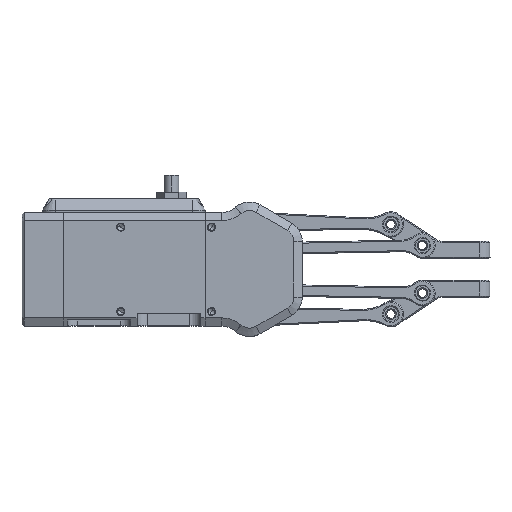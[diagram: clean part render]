
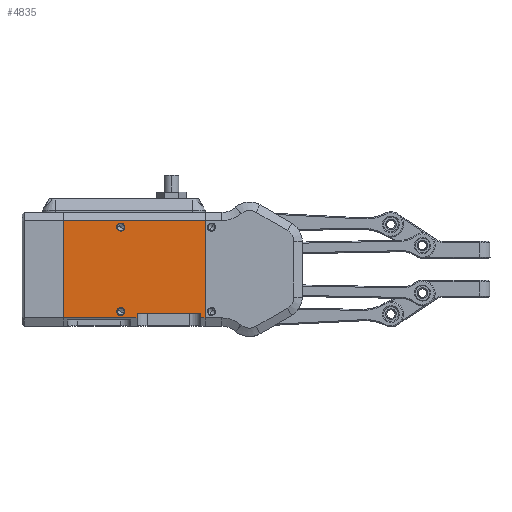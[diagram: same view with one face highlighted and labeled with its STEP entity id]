
A CAD part, front view. The second image highlights one B-rep face of the part: STEP entity #4835.
In plain terms, the highlighted planar face has unit normal (0, -1, 0) as drawn and (0, 1, 0) by its records, which use the part's own axes.
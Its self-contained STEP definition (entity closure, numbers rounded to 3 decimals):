
#113=CARTESIAN_POINT('Vertex',(-35.,22.5,-21.)) ;
#116=CARTESIAN_POINT('Line Origine',(-35.,22.5,-22.)) ;
#120=CARTESIAN_POINT('Vertex',(-35.,22.5,-23.)) ;
#4431=CARTESIAN_POINT('Vertex',(-65.,22.5,-23.)) ;
#4434=CARTESIAN_POINT('Line Origine',(-65.,22.5,-22.)) ;
#4438=CARTESIAN_POINT('Vertex',(-65.,22.5,-21.)) ;
#4453=CARTESIAN_POINT('Line Origine',(-50.,22.5,-21.)) ;
#4474=CARTESIAN_POINT('Line Origine',(-17.5,22.5,-23.)) ;
#4478=CARTESIAN_POINT('Vertex',(0.,22.5,-23.)) ;
#4505=CARTESIAN_POINT('Line Origine',(0.,22.5,0.)) ;
#4509=CARTESIAN_POINT('Vertex',(0.,22.5,23.)) ;
#4559=CARTESIAN_POINT('Line Origine',(-33.65,22.5,23.)) ;
#4563=CARTESIAN_POINT('Vertex',(-67.3,22.5,23.)) ;
#4587=CARTESIAN_POINT('Vertex',(-67.3,22.5,-23.)) ;
#4590=CARTESIAN_POINT('Line Origine',(-67.3,22.5,0.)) ;
#4622=CARTESIAN_POINT('Line Origine',(-66.15,22.5,-23.)) ;
#4698=CARTESIAN_POINT('Vertex',(-28.986,22.5,-20.921)) ;
#4701=CARTESIAN_POINT('Axis2P3D Location',(-27.3,22.5,-20.)) ;
#4705=CARTESIAN_POINT('Vertex',(-25.614,22.5,-19.079)) ;
#4725=CARTESIAN_POINT('Axis2P3D Location',(-27.3,22.5,-20.)) ;
#4780=CARTESIAN_POINT('Axis2P3D Location',(0.,22.5,27.)) ;
#4795=CARTESIAN_POINT('Axis2P3D Location',(-27.3,22.5,20.)) ;
#4799=CARTESIAN_POINT('Vertex',(-25.614,22.5,20.921)) ;
#4801=CARTESIAN_POINT('Vertex',(-28.986,22.5,19.079)) ;
#4805=CARTESIAN_POINT('Control Point',(-28.986,22.5,19.079)) ;
#4806=CARTESIAN_POINT('Control Point',(-29.086,22.5,19.262)) ;
#4807=CARTESIAN_POINT('Control Point',(-29.161,22.5,19.458)) ;
#4808=CARTESIAN_POINT('Control Point',(-29.209,22.5,19.663)) ;
#4809=CARTESIAN_POINT('Control Point',(-29.253,22.5,20.138)) ;
#4810=CARTESIAN_POINT('Control Point',(-29.152,22.5,20.607)) ;
#4811=CARTESIAN_POINT('Control Point',(-29.05,22.5,20.858)) ;
#4812=CARTESIAN_POINT('Control Point',(-28.837,22.5,21.197)) ;
#4813=CARTESIAN_POINT('Control Point',(-28.548,22.5,21.469)) ;
#4814=CARTESIAN_POINT('Control Point',(-28.445,22.5,21.551)) ;
#4815=CARTESIAN_POINT('Control Point',(-28.087,22.5,21.788)) ;
#4816=CARTESIAN_POINT('Control Point',(-27.672,22.5,21.92)) ;
#4817=CARTESIAN_POINT('Control Point',(-27.369,22.5,21.955)) ;
#4818=CARTESIAN_POINT('Control Point',(-26.763,22.5,21.905)) ;
#4819=CARTESIAN_POINT('Control Point',(-26.219,22.5,21.631)) ;
#4820=CARTESIAN_POINT('Control Point',(-25.976,22.5,21.441)) ;
#4821=CARTESIAN_POINT('Control Point',(-25.773,22.5,21.204)) ;
#4822=CARTESIAN_POINT('Control Point',(-25.623,22.5,20.937)) ;
#4823=CARTESIAN_POINT('Control Point',(-25.62,22.5,20.931)) ;
#4824=CARTESIAN_POINT('Control Point',(-25.617,22.5,20.926)) ;
#4825=CARTESIAN_POINT('Control Point',(-25.614,22.5,20.921)) ;
#117=DIRECTION('Vector Direction',(0.,0.,1.)) ;
#4435=DIRECTION('Vector Direction',(0.,0.,1.)) ;
#4454=DIRECTION('Vector Direction',(1.,0.,0.)) ;
#4475=DIRECTION('Vector Direction',(1.,0.,0.)) ;
#4506=DIRECTION('Vector Direction',(0.,0.,-1.)) ;
#4560=DIRECTION('Vector Direction',(1.,0.,0.)) ;
#4591=DIRECTION('Vector Direction',(0.,0.,-1.)) ;
#4623=DIRECTION('Vector Direction',(1.,0.,0.)) ;
#4702=DIRECTION('Axis2P3D Direction',(0.,1.,0.)) ;
#4726=DIRECTION('Axis2P3D Direction',(-0.,1.,0.)) ;
#4781=DIRECTION('Axis2P3D Direction',(0.,1.,0.)) ;
#4782=DIRECTION('Axis2P3D XDirection',(0.,0.,-1.)) ;
#4796=DIRECTION('Axis2P3D Direction',(0.,1.,0.)) ;
#4703=AXIS2_PLACEMENT_3D('Circle Axis2P3D',#4701,#4702,$) ;
#4727=AXIS2_PLACEMENT_3D('Circle Axis2P3D',#4725,#4726,$) ;
#4783=AXIS2_PLACEMENT_3D('Plane Axis2P3D',#4780,#4781,#4782) ;
#4797=AXIS2_PLACEMENT_3D('Circle Axis2P3D',#4795,#4796,$) ;
#4786=ORIENTED_EDGE('',*,*,#4626,.F.) ;
#4787=ORIENTED_EDGE('',*,*,#4594,.F.) ;
#4788=ORIENTED_EDGE('',*,*,#4565,.F.) ;
#4789=ORIENTED_EDGE('',*,*,#4511,.F.) ;
#4790=ORIENTED_EDGE('',*,*,#4480,.F.) ;
#4791=ORIENTED_EDGE('',*,*,#122,.T.) ;
#4792=ORIENTED_EDGE('',*,*,#4457,.F.) ;
#4793=ORIENTED_EDGE('',*,*,#4440,.F.) ;
#4828=ORIENTED_EDGE('',*,*,#4803,.F.) ;
#4829=ORIENTED_EDGE('',*,*,#4826,.F.) ;
#4832=ORIENTED_EDGE('',*,*,#4729,.F.) ;
#4833=ORIENTED_EDGE('',*,*,#4707,.F.) ;
#4830=FACE_BOUND('',#4827,.T.) ;
#4834=FACE_BOUND('',#4831,.T.) ;
#118=VECTOR('Line Direction',#117,1.) ;
#4436=VECTOR('Line Direction',#4435,1.) ;
#4455=VECTOR('Line Direction',#4454,1.) ;
#4476=VECTOR('Line Direction',#4475,1.) ;
#4507=VECTOR('Line Direction',#4506,1.) ;
#4561=VECTOR('Line Direction',#4560,1.) ;
#4592=VECTOR('Line Direction',#4591,1.) ;
#4624=VECTOR('Line Direction',#4623,1.) ;
#4835=ADVANCED_FACE('\X2\96F64EF651E04F554F53\X0\',(#4794,#4830,#4834),#4784,.T.) ;
#4804=B_SPLINE_CURVE_WITH_KNOTS('',5,(#4805,#4806,#4807,#4808,#4809,#4810,#4811,#4812,#4813,#4814,#4815,#4816,#4817,#4818,#4819,#4820,#4821,#4822,#4823,#4824,#4825),.UNSPECIFIED.,.F.,.U.,(6,3,3,3,3,3,6),(7.896,9.258,10.989,11.844,13.787,15.753,15.792),.UNSPECIFIED.) ;
#4704=CIRCLE('generated circle',#4703,1.921) ;
#4728=CIRCLE('generated circle',#4727,1.921) ;
#4798=CIRCLE('generated circle',#4797,1.921) ;
#122=EDGE_CURVE('',#121,#114,#119,.T.) ;
#4440=EDGE_CURVE('',#4432,#4439,#4437,.T.) ;
#4457=EDGE_CURVE('',#4439,#114,#4456,.T.) ;
#4480=EDGE_CURVE('',#121,#4479,#4477,.T.) ;
#4511=EDGE_CURVE('',#4479,#4510,#4508,.F.) ;
#4565=EDGE_CURVE('',#4510,#4564,#4562,.F.) ;
#4594=EDGE_CURVE('',#4564,#4588,#4593,.T.) ;
#4626=EDGE_CURVE('',#4588,#4432,#4625,.T.) ;
#4707=EDGE_CURVE('',#4699,#4706,#4704,.T.) ;
#4729=EDGE_CURVE('',#4706,#4699,#4728,.T.) ;
#4803=EDGE_CURVE('',#4800,#4802,#4798,.T.) ;
#4826=EDGE_CURVE('',#4802,#4800,#4804,.T.) ;
#4785=EDGE_LOOP('',(#4786,#4787,#4788,#4789,#4790,#4791,#4792,#4793)) ;
#4827=EDGE_LOOP('',(#4828,#4829)) ;
#4831=EDGE_LOOP('',(#4832,#4833)) ;
#4794=FACE_OUTER_BOUND('',#4785,.T.) ;
#119=LINE('Line',#116,#118) ;
#4437=LINE('Line',#4434,#4436) ;
#4456=LINE('Line',#4453,#4455) ;
#4477=LINE('Line',#4474,#4476) ;
#4508=LINE('Line',#4505,#4507) ;
#4562=LINE('Line',#4559,#4561) ;
#4593=LINE('Line',#4590,#4592) ;
#4625=LINE('Line',#4622,#4624) ;
#4784=PLANE('Plane',#4783) ;
#114=VERTEX_POINT('',#113) ;
#121=VERTEX_POINT('',#120) ;
#4432=VERTEX_POINT('',#4431) ;
#4439=VERTEX_POINT('',#4438) ;
#4479=VERTEX_POINT('',#4478) ;
#4510=VERTEX_POINT('',#4509) ;
#4564=VERTEX_POINT('',#4563) ;
#4588=VERTEX_POINT('',#4587) ;
#4699=VERTEX_POINT('',#4698) ;
#4706=VERTEX_POINT('',#4705) ;
#4800=VERTEX_POINT('',#4799) ;
#4802=VERTEX_POINT('',#4801) ;
